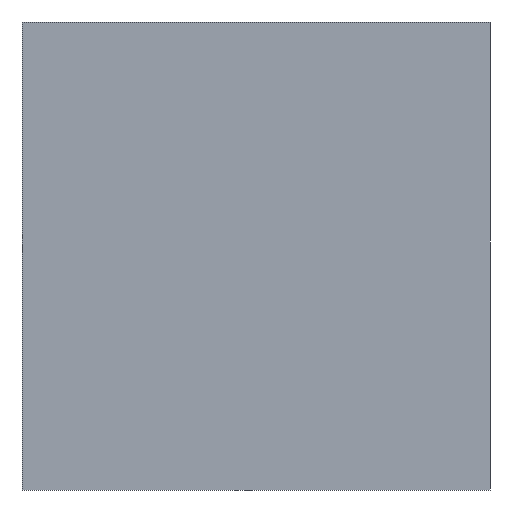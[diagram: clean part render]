
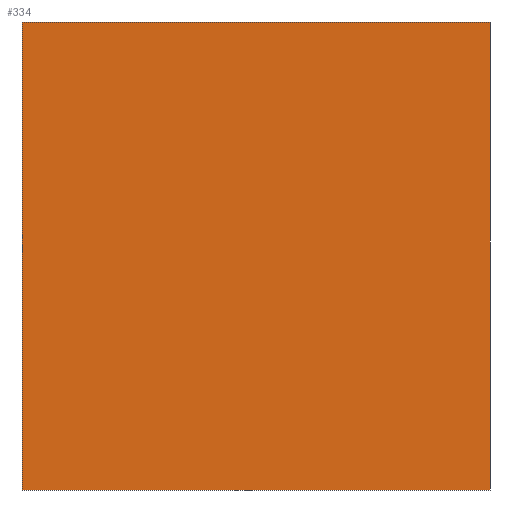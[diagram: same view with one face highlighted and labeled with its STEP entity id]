
A CAD part, front view. The second image highlights one B-rep face of the part: STEP entity #334.
In plain terms, the highlighted planar face has unit normal (0, -1, 0).
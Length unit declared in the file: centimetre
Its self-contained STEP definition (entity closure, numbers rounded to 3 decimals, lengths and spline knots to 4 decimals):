
#6 = VERTEX_POINT ( 'NONE', #40 ) ;
#27 = PLANE ( 'NONE',  #171 ) ;
#28 = LINE ( 'NONE', #284, #283 ) ;
#33 = CARTESIAN_POINT ( 'NONE',  ( 1000., 0., 1000. ) ) ;
#34 = LINE ( 'NONE', #247, #327 ) ;
#40 = CARTESIAN_POINT ( 'NONE',  ( 1000., 0., 0. ) ) ;
#61 = DIRECTION ( 'NONE',  ( 0., 1., 0. ) ) ;
#67 = VERTEX_POINT ( 'NONE', #33 ) ;
#85 = DIRECTION ( 'NONE',  ( 1., 0., 0. ) ) ;
#88 = CARTESIAN_POINT ( 'NONE',  ( 0., 0., 1000. ) ) ;
#97 = VERTEX_POINT ( 'NONE', #88 ) ;
#99 = ORIENTED_EDGE ( 'NONE', *, *, #245, .T. ) ;
#115 = FACE_OUTER_BOUND ( 'NONE', #288, .T. ) ;
#120 = ORIENTED_EDGE ( 'NONE', *, *, #170, .T. ) ;
#124 = VERTEX_POINT ( 'NONE', #294 ) ;
#145 = ORIENTED_EDGE ( 'NONE', *, *, #303, .F. ) ;
#154 = LINE ( 'NONE', #214, #309 ) ;
#170 = EDGE_CURVE ( 'NONE', #124, #6, #154, .T. ) ;
#171 = AXIS2_PLACEMENT_3D ( 'NONE', #341, #61, #172 ) ;
#172 = DIRECTION ( 'NONE',  ( 0., 0., 1. ) ) ;
#211 = DIRECTION ( 'NONE',  ( 1., 0., 0. ) ) ;
#214 = CARTESIAN_POINT ( 'NONE',  ( 0., 0., 0. ) ) ;
#245 = EDGE_CURVE ( 'NONE', #97, #124, #367, .T. ) ;
#246 = VECTOR ( 'NONE', #307, 100. ) ;
#247 = CARTESIAN_POINT ( 'NONE',  ( 1000., 0., 1000. ) ) ;
#281 = CARTESIAN_POINT ( 'NONE',  ( 0., 0., 1000. ) ) ;
#283 = VECTOR ( 'NONE', #85, 100. ) ;
#284 = CARTESIAN_POINT ( 'NONE',  ( 0., 0., 1000. ) ) ;
#288 = EDGE_LOOP ( 'NONE', ( #120, #145, #348, #99 ) ) ;
#294 = CARTESIAN_POINT ( 'NONE',  ( 0., 0., 0. ) ) ;
#297 = EDGE_CURVE ( 'NONE', #97, #67, #28, .T. ) ;
#303 = EDGE_CURVE ( 'NONE', #67, #6, #34, .T. ) ;
#307 = DIRECTION ( 'NONE',  ( 0., 0., -1. ) ) ;
#309 = VECTOR ( 'NONE', #211, 100. ) ;
#327 = VECTOR ( 'NONE', #339, 100. ) ;
#334 = ADVANCED_FACE ( 'NONE', ( #115 ), #27, .F. ) ;
#339 = DIRECTION ( 'NONE',  ( 0., 0., -1. ) ) ;
#341 = CARTESIAN_POINT ( 'NONE',  ( 0., 0., 1000. ) ) ;
#348 = ORIENTED_EDGE ( 'NONE', *, *, #297, .F. ) ;
#367 = LINE ( 'NONE', #281, #246 ) ;
